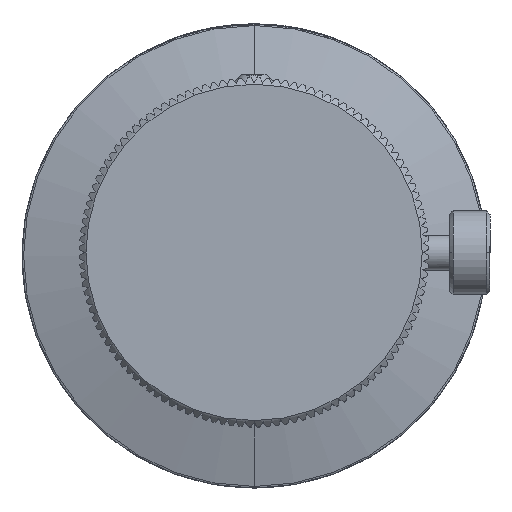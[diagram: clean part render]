
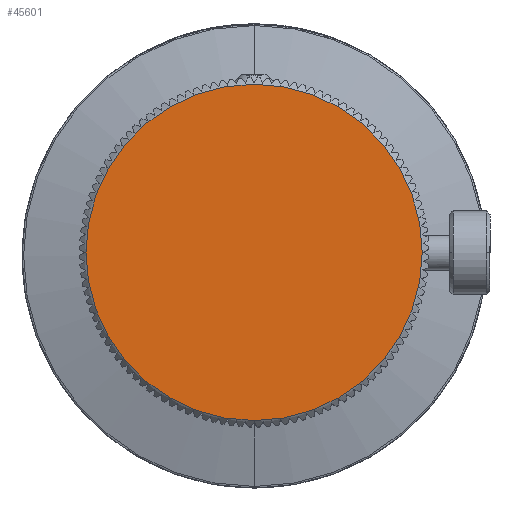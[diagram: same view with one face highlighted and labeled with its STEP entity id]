
A CAD part, top view. The second image highlights one B-rep face of the part: STEP entity #45601.
In plain terms, the highlighted planar face has unit normal (0, 0, 1).
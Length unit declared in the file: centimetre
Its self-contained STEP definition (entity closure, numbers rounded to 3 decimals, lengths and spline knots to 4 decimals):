
#13493 = CIRCLE ( 'NONE', #15341, 1.9875 ) ;
#15341 = AXIS2_PLACEMENT_3D ( 'NONE', #53260, #53261, #53262 ) ;
#17581 = EDGE_LOOP ( 'NONE', ( #19127, #19137 ) ) ;
#19127 = ORIENTED_EDGE ( 'NONE', *, *, #43053, .F. ) ;
#19137 = ORIENTED_EDGE ( 'NONE', *, *, #45614, .F. ) ;
#23685 = CARTESIAN_POINT ( 'NONE',  ( 0., -1.9875, 24.5491 ) ) ;
#24060 = CARTESIAN_POINT ( 'NONE',  ( 0., 1.9876, 24.5491 ) ) ;
#29100 = AXIS2_PLACEMENT_3D ( 'NONE', #29757, #29762, #29763 ) ;
#29107 = AXIS2_PLACEMENT_3D ( 'NONE', #29812, #29813, #29814 ) ;
#29757 = CARTESIAN_POINT ( 'NONE',  ( 0., 0., 24.5491 ) ) ;
#29759 = PLANE ( 'NONE',  #29100 ) ;
#29762 = DIRECTION ( 'NONE',  ( 0., 0., -1. ) ) ;
#29763 = DIRECTION ( 'NONE',  ( 0., 1., 0. ) ) ;
#29812 = CARTESIAN_POINT ( 'NONE',  ( 0., 0., 24.5491 ) ) ;
#29813 = DIRECTION ( 'NONE',  ( 0., 0., -1. ) ) ;
#29814 = DIRECTION ( 'NONE',  ( 0., 1., 0. ) ) ;
#31601 = VERTEX_POINT ( 'NONE', #23685 ) ;
#32396 = VERTEX_POINT ( 'NONE', #24060 ) ;
#33131 = FACE_OUTER_BOUND ( 'NONE', #17581, .T. ) ;
#33145 = CIRCLE ( 'NONE', #29107, 1.9875 ) ;
#43053 = EDGE_CURVE ( 'NONE', #32396, #31601, #13493, .T. ) ;
#45601 = ADVANCED_FACE ( 'NONE', ( #33131 ), #29759, .F. ) ;
#45614 = EDGE_CURVE ( 'NONE', #31601, #32396, #33145, .T. ) ;
#53260 = CARTESIAN_POINT ( 'NONE',  ( 0., 0., 24.5491 ) ) ;
#53261 = DIRECTION ( 'NONE',  ( 0., 0., -1. ) ) ;
#53262 = DIRECTION ( 'NONE',  ( 0., 1., 0. ) ) ;
